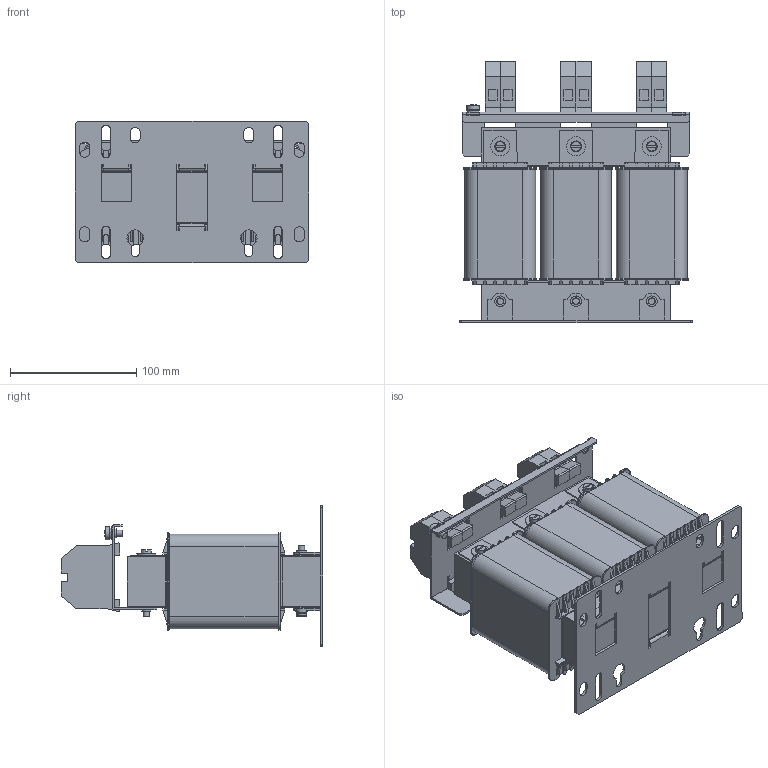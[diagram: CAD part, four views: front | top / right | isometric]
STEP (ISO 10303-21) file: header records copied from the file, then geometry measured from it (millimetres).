
FILE_DESCRIPTION (( 'STEP AP214' ), '1' );
FILE_NAME ('PCT-063.STEP', '2015-04-28T13:08:56', ( 'EDV' ), ( 'Microsoft' ), 'SwSTEP 2.0', 'SolidWorks 2014', '' );
FILE_SCHEMA (( 'AUTOMOTIVE_DESIGN' ));
Length unit declared in the file: millimetre
Products named in the file (16): RK16-35N; U5DIN127; M5x10-DIN7985; #040-1069; #040-0877; PCT-063; Joch 3UI 90-39,5; Luftspalt 150x39,5x1,4mm; Schenkel 3UI 90-39,5; Luftspalt 150x39,5x1,3mm; #144-0148; UI90-41,5-oD; WickelUI90_41,5_1oD; Plain Washer Grade A_DIN_Washer DIN 125 - A 5.3; Slotted Cheese Head Screw_DIN_ISO 1207 - M5 x 50 --- 50N; Plain Washer Large_DIN_Washer DIN 9021 - 5.3
Assembly tree (38 placements, depth 2):
  PCT-063
    Joch 3UI 90-39,5  x2
    Luftspalt 150x39,5x1,4mm
    Schenkel 3UI 90-39,5  x3
    Luftspalt 150x39,5x1,3mm
    #144-0148  x2
    UI90-41,5-oD  x3
    WickelUI90_41,5_1oD  x3
    Plain Washer Grade A_DIN_Washer DIN 125 - A 5.3  x4
    Slotted Cheese Head Screw_DIN_ISO 1207 - M5 x 50 --- 50N  x6
    Plain Washer Large_DIN_Washer DIN 9021 - 5.3  x3
    #040-1069
    RK16-35N  x6
    U5DIN127
    M5x10-DIN7985
    #040-0877
Bounding box: 185 x 207.2 x 112 mm (x, y, z)
Volume: 1673695.1 mm3; surface area: 546774.3 mm2
Topology: 38 solids, 38 shells, 2576 faces, 6543 edges, 4126 vertices
Faces by surface type: plane 1577, cylinder 607, torus 300, bspline 85, cone 6, sphere 1
Full cylindrical faces by diameter (mm): 2.316 x1, 4.2 x2, 5 x10, 5.3 x7, 5.5 x3, 5.8 x1, 6.2 x6, 6.5 x13, 6.95 x1, 7 x5, 7.15 x1, 8.5 x9, 10 x5, 15 x3
Entity records: 50524 total; most frequent: CARTESIAN_POINT 12613, ORIENTED_EDGE 7162, DIRECTION 6740, EDGE_CURVE 3581, VECTOR 2756, LINE 2756, VERTEX_POINT 2313, AXIS2_PLACEMENT_3D 1992
